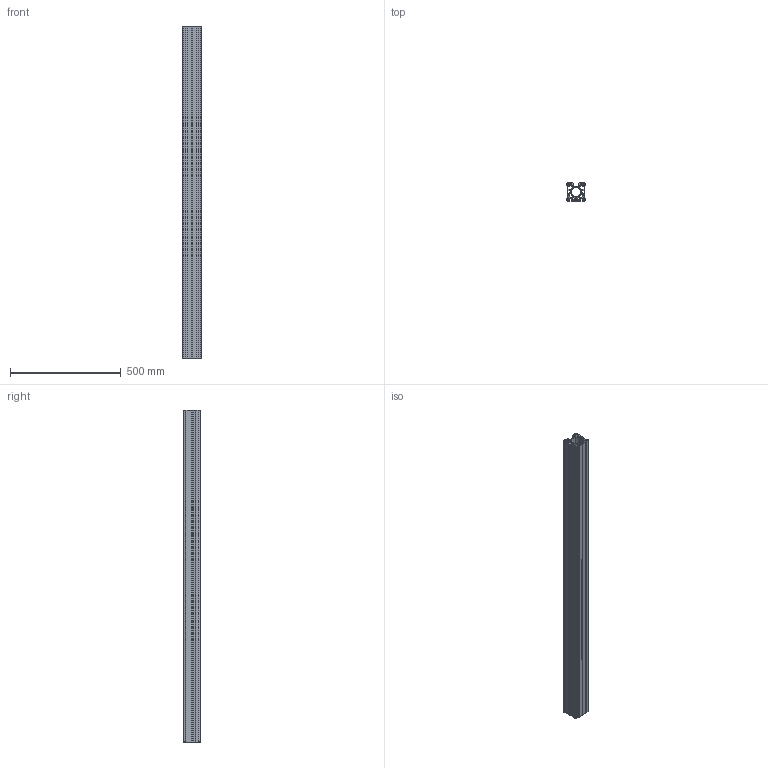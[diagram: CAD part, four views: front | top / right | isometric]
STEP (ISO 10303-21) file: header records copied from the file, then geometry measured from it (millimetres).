
FILE_DESCRIPTION (( 'STEP AP203' ), '1' );
FILE_NAME ('_-_MLF 4 1498 mm lang.step', '2005-09-01T12:46:13', ( ' ' ), ( ' ' ), 'SwSTEP 2.0', 'SolidWorks 2005187', '' );
FILE_SCHEMA (( 'CONFIG_CONTROL_DESIGN' ));
Length unit declared in the file: millimetre
Products named in the file (1): _-_MLF 4  1498 mm lang
Bounding box: 87.6 x 80 x 1498 mm (x, y, z)
Volume: 3451316 mm3; surface area: 1852517.7 mm2
Topology: 1 solids, 1 shells, 248 faces, 762 edges, 500 vertices
Faces by surface type: plane 174, cylinder 74
Entity records: 8575 total; most frequent: ORIENTED_EDGE 1524, CARTESIAN_POINT 1511, DIRECTION 1408, EDGE_CURVE 762, VECTOR 614, LINE 614, VERTEX_POINT 500, AXIS2_PLACEMENT_3D 397
